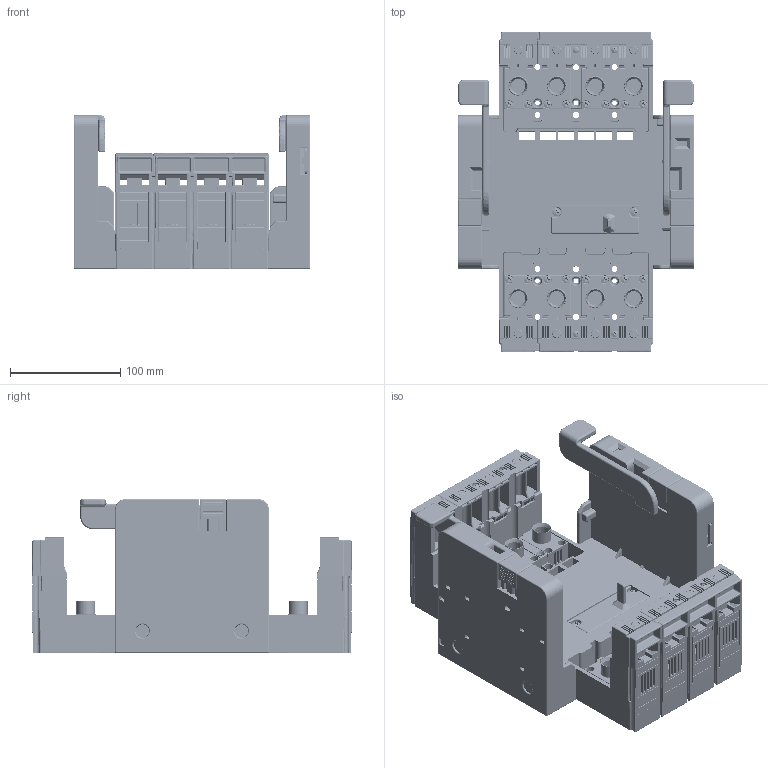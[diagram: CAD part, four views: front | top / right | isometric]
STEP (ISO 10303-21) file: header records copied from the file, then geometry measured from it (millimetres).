
FILE_DESCRIPTION (( 'STEP AP214' ), '1' );
FILE_NAME ('ZV-BD-0250-400_zj_02.step', '2013-08-22T09:53:29', ( '' ), ( '' ), 'SwSTEP 2.0', 'SolidWorks 2011', '' );
FILE_SCHEMA (( 'AUTOMOTIVE_DESIGN' ));
Length unit declared in the file: millimetre
Products named in the file (1): ZV-BD-0250-400_zj_02
Bounding box: 215.08 x 290 x 140 mm (x, y, z)
Volume: 2318111 mm3; surface area: 586737.9 mm2
Topology: 11 solids, 12 shells, 7170 faces, 19179 edges, 12025 vertices
Faces by surface type: plane 4072, cylinder 2267, bspline 229, sphere 224, cone 208, torus 170
Entity records: 327660 total; most frequent: CARTESIAN_POINT 77251, ORIENTED_EDGE 37732, DIRECTION 32400, EDGE_CURVE 18866, LINE 12512, VECTOR 12512, VERTEX_POINT 12014, AXIS2_PLACEMENT_3D 9944
